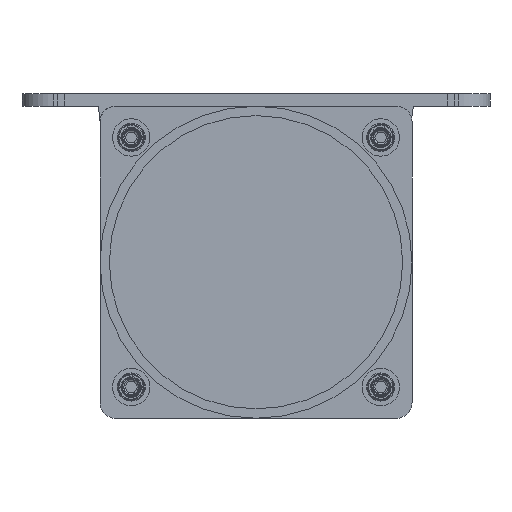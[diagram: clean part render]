
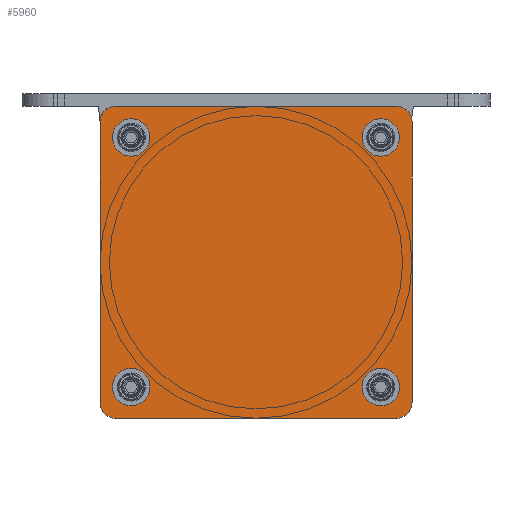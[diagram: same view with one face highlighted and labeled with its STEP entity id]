
A CAD part, front view. The second image highlights one B-rep face of the part: STEP entity #5960.
In plain terms, the highlighted planar face has unit normal (0, -1, 0).
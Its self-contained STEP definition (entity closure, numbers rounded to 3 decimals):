
#2117=CARTESIAN_POINT('',(-45.,-875.5,-45.));
#2118=DIRECTION('',(0.,-1.,0.));
#2119=DIRECTION('',(-1.,0.,0.));
#2120=AXIS2_PLACEMENT_3D('',#2117,#2118,#2119);
#2122=DIRECTION('',(0.,0.,-1.));
#2123=VECTOR('',#2122,90.);
#2124=CARTESIAN_POINT('',(-50.,-875.5,45.));
#2125=LINE('',#2124,#2123);
#2126=CARTESIAN_POINT('',(-45.,-875.5,45.));
#2127=DIRECTION('',(0.,-1.,0.));
#2128=DIRECTION('',(0.,0.,1.));
#2129=AXIS2_PLACEMENT_3D('',#2126,#2127,#2128);
#2131=DIRECTION('',(-1.,0.,0.));
#2132=VECTOR('',#2131,90.);
#2133=CARTESIAN_POINT('',(45.,-875.5,50.));
#2134=LINE('',#2133,#2132);
#2135=CARTESIAN_POINT('',(45.,-875.5,45.));
#2136=DIRECTION('',(0.,-1.,0.));
#2137=DIRECTION('',(1.,0.,0.));
#2138=AXIS2_PLACEMENT_3D('',#2135,#2136,#2137);
#2140=DIRECTION('',(0.,0.,1.));
#2141=VECTOR('',#2140,90.);
#2142=CARTESIAN_POINT('',(50.,-875.5,-45.));
#2143=LINE('',#2142,#2141);
#2144=CARTESIAN_POINT('',(45.,-875.5,-45.));
#2145=DIRECTION('',(0.,-1.,0.));
#2146=DIRECTION('',(0.,0.,-1.));
#2147=AXIS2_PLACEMENT_3D('',#2144,#2145,#2146);
#2149=DIRECTION('',(1.,0.,0.));
#2150=VECTOR('',#2149,90.);
#2151=CARTESIAN_POINT('',(-45.,-875.5,-50.));
#2152=LINE('',#2151,#2150);
#2153=CARTESIAN_POINT('',(-40.,-875.5,-40.));
#2154=DIRECTION('',(0.,-1.,0.));
#2155=DIRECTION('',(0.,0.,1.));
#2156=AXIS2_PLACEMENT_3D('',#2153,#2154,#2155);
#2158=CARTESIAN_POINT('',(-40.,-875.5,-40.));
#2159=DIRECTION('',(0.,-1.,0.));
#2160=DIRECTION('',(0.,0.,-1.));
#2161=AXIS2_PLACEMENT_3D('',#2158,#2159,#2160);
#2163=CARTESIAN_POINT('',(-40.,-875.5,40.));
#2164=DIRECTION('',(0.,-1.,0.));
#2165=DIRECTION('',(0.,0.,1.));
#2166=AXIS2_PLACEMENT_3D('',#2163,#2164,#2165);
#2168=CARTESIAN_POINT('',(-40.,-875.5,40.));
#2169=DIRECTION('',(0.,-1.,0.));
#2170=DIRECTION('',(0.,0.,-1.));
#2171=AXIS2_PLACEMENT_3D('',#2168,#2169,#2170);
#2173=CARTESIAN_POINT('',(40.,-875.5,-40.));
#2174=DIRECTION('',(0.,-1.,0.));
#2175=DIRECTION('',(0.,0.,1.));
#2176=AXIS2_PLACEMENT_3D('',#2173,#2174,#2175);
#2178=CARTESIAN_POINT('',(40.,-875.5,-40.));
#2179=DIRECTION('',(0.,-1.,0.));
#2180=DIRECTION('',(0.,0.,-1.));
#2181=AXIS2_PLACEMENT_3D('',#2178,#2179,#2180);
#2183=CARTESIAN_POINT('',(40.,-875.5,40.));
#2184=DIRECTION('',(0.,-1.,0.));
#2185=DIRECTION('',(0.,0.,1.));
#2186=AXIS2_PLACEMENT_3D('',#2183,#2184,#2185);
#2188=CARTESIAN_POINT('',(40.,-875.5,40.));
#2189=DIRECTION('',(0.,-1.,0.));
#2190=DIRECTION('',(0.,0.,-1.));
#2191=AXIS2_PLACEMENT_3D('',#2188,#2189,#2190);
#2501=CARTESIAN_POINT('',(-50.,-875.5,-45.));
#2502=CARTESIAN_POINT('',(-45.,-875.5,-50.));
#2503=VERTEX_POINT('',#2501);
#2504=VERTEX_POINT('',#2502);
#2505=CARTESIAN_POINT('',(45.,-875.5,-50.));
#2506=VERTEX_POINT('',#2505);
#2507=CARTESIAN_POINT('',(50.,-875.5,-45.));
#2508=VERTEX_POINT('',#2507);
#2509=CARTESIAN_POINT('',(50.,-875.5,45.));
#2510=VERTEX_POINT('',#2509);
#2511=CARTESIAN_POINT('',(45.,-875.5,50.));
#2512=VERTEX_POINT('',#2511);
#2513=CARTESIAN_POINT('',(-45.,-875.5,50.));
#2514=VERTEX_POINT('',#2513);
#2515=CARTESIAN_POINT('',(-50.,-875.5,45.));
#2516=VERTEX_POINT('',#2515);
#2529=CARTESIAN_POINT('',(-40.,-875.5,-36.75));
#2530=CARTESIAN_POINT('',(-40.,-875.5,-43.25));
#2531=VERTEX_POINT('',#2529);
#2532=VERTEX_POINT('',#2530);
#2533=CARTESIAN_POINT('',(-40.,-875.5,43.25));
#2534=CARTESIAN_POINT('',(-40.,-875.5,36.75));
#2535=VERTEX_POINT('',#2533);
#2536=VERTEX_POINT('',#2534);
#2537=CARTESIAN_POINT('',(40.,-875.5,-36.75));
#2538=CARTESIAN_POINT('',(40.,-875.5,-43.25));
#2539=VERTEX_POINT('',#2537);
#2540=VERTEX_POINT('',#2538);
#2541=CARTESIAN_POINT('',(40.,-875.5,43.25));
#2542=CARTESIAN_POINT('',(40.,-875.5,36.75));
#2543=VERTEX_POINT('',#2541);
#2544=VERTEX_POINT('',#2542);
#5915=CARTESIAN_POINT('',(0.,-875.5,0.));
#5916=DIRECTION('',(0.,-1.,0.));
#5917=DIRECTION('',(0.,0.,1.));
#5918=AXIS2_PLACEMENT_3D('',#5915,#5916,#5917);
#5919=PLANE('',#5918);
#5921=ORIENTED_EDGE('',*,*,#5920,.F.);
#5923=ORIENTED_EDGE('',*,*,#5922,.F.);
#5925=ORIENTED_EDGE('',*,*,#5924,.F.);
#5927=ORIENTED_EDGE('',*,*,#5926,.F.);
#5929=ORIENTED_EDGE('',*,*,#5928,.F.);
#5931=ORIENTED_EDGE('',*,*,#5930,.F.);
#5933=ORIENTED_EDGE('',*,*,#5932,.F.);
#5935=ORIENTED_EDGE('',*,*,#5934,.F.);
#5936=EDGE_LOOP('',(#5921,#5923,#5925,#5927,#5929,#5931,#5933,#5935));
#5937=FACE_OUTER_BOUND('',#5936,.F.);
#5938=ORIENTED_EDGE('',*,*,#5895,.T.);
#5939=ORIENTED_EDGE('',*,*,#5909,.T.);
#5940=EDGE_LOOP('',(#5938,#5939));
#5941=FACE_BOUND('',#5940,.F.);
#5943=ORIENTED_EDGE('',*,*,#5942,.T.);
#5945=ORIENTED_EDGE('',*,*,#5944,.T.);
#5946=EDGE_LOOP('',(#5943,#5945));
#5947=FACE_BOUND('',#5946,.F.);
#5949=ORIENTED_EDGE('',*,*,#5948,.T.);
#5951=ORIENTED_EDGE('',*,*,#5950,.T.);
#5952=EDGE_LOOP('',(#5949,#5951));
#5953=FACE_BOUND('',#5952,.F.);
#5955=ORIENTED_EDGE('',*,*,#5954,.T.);
#5957=ORIENTED_EDGE('',*,*,#5956,.T.);
#5958=EDGE_LOOP('',(#5955,#5957));
#5959=FACE_BOUND('',#5958,.F.);
#5960=ADVANCED_FACE('',(#5937,#5941,#5947,#5953,#5959),#5919,.T.);
#2121=CIRCLE('',#2120,5.);
#2130=CIRCLE('',#2129,5.);
#2139=CIRCLE('',#2138,5.);
#2148=CIRCLE('',#2147,5.);
#2157=CIRCLE('',#2156,3.25);
#2162=CIRCLE('',#2161,3.25);
#2167=CIRCLE('',#2166,3.25);
#2172=CIRCLE('',#2171,3.25);
#2177=CIRCLE('',#2176,3.25);
#2182=CIRCLE('',#2181,3.25);
#2187=CIRCLE('',#2186,3.25);
#2192=CIRCLE('',#2191,3.25);
#5895=EDGE_CURVE('',#2531,#2532,#2157,.T.);
#5909=EDGE_CURVE('',#2532,#2531,#2162,.T.);
#5920=EDGE_CURVE('',#2503,#2504,#2121,.T.);
#5922=EDGE_CURVE('',#2516,#2503,#2125,.T.);
#5924=EDGE_CURVE('',#2514,#2516,#2130,.T.);
#5926=EDGE_CURVE('',#2512,#2514,#2134,.T.);
#5928=EDGE_CURVE('',#2510,#2512,#2139,.T.);
#5930=EDGE_CURVE('',#2508,#2510,#2143,.T.);
#5932=EDGE_CURVE('',#2506,#2508,#2148,.T.);
#5934=EDGE_CURVE('',#2504,#2506,#2152,.T.);
#5942=EDGE_CURVE('',#2535,#2536,#2167,.T.);
#5944=EDGE_CURVE('',#2536,#2535,#2172,.T.);
#5948=EDGE_CURVE('',#2539,#2540,#2177,.T.);
#5950=EDGE_CURVE('',#2540,#2539,#2182,.T.);
#5954=EDGE_CURVE('',#2543,#2544,#2187,.T.);
#5956=EDGE_CURVE('',#2544,#2543,#2192,.T.);
